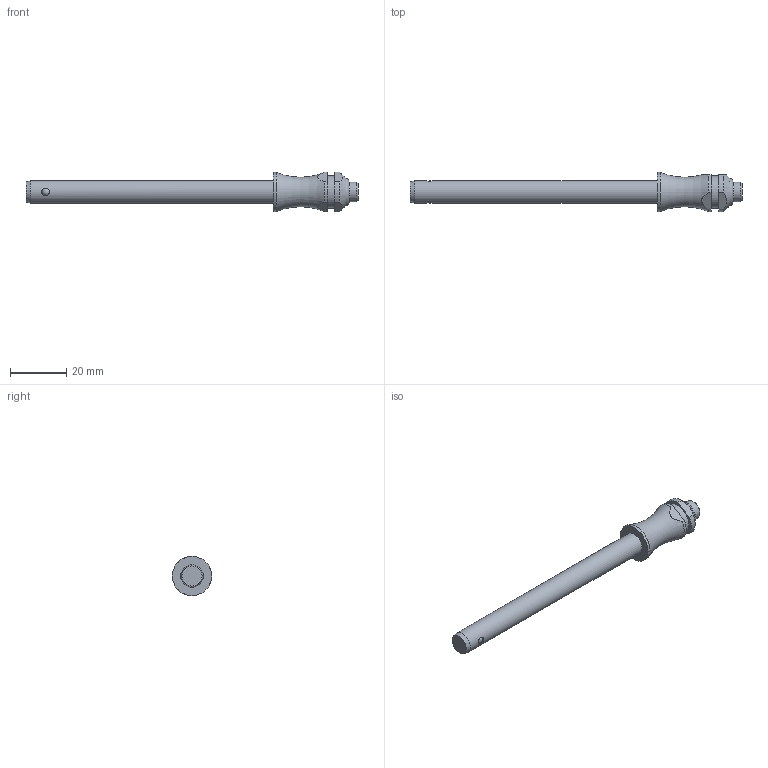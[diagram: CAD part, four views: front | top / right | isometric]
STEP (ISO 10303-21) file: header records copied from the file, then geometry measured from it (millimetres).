
FILE_DESCRIPTION( ( 'STEP AP203' ), '1' );
FILE_NAME( 'C:/Temp/Ganter_Step_05_03_2020/data/3_1/gn113_3/Stainless Steel-Ball lock pin GN 113.3-8-80 (activated).stp', '2020-03-12T08:18:28', ( 'License CC BY-ND 4.0' ), ( 'CADENAS' ), ' ', 'PARTsolutions', ' ' );
FILE_SCHEMA( ( 'CONFIG_CONTROL_DESIGN' ) );
Length unit declared in the file: millimetre
Products named in the file (1): _Stainless Steel-Ball lock pin GN 113.3-8-80 (activated)
Bounding box: 118.35 x 14 x 14 mm (x, y, z)
Volume: 7522.5 mm3; surface area: 3634.3 mm2
Topology: 1 solids, 1 shells, 30 faces, 72 edges, 45 vertices
Faces by surface type: cylinder 12, plane 11, cone 3, torus 2, sphere 2
Full cylindrical faces by diameter (mm): 2.78 x2, 7 x1, 8 x1, 11.6 x1, 14 x1
Entity records: 968 total; most frequent: CARTESIAN_POINT 321, DIRECTION 130, ORIENTED_EDGE 102, AXIS2_PLACEMENT_3D 56, EDGE_CURVE 51, EDGE_LOOP 46, VERTEX_POINT 39, FACE_OUTER_BOUND 38
